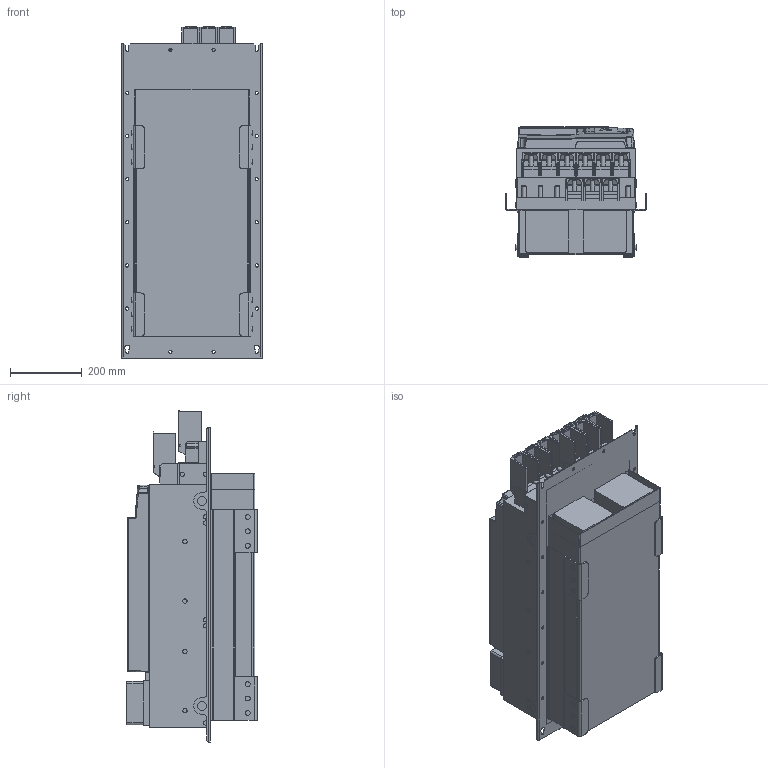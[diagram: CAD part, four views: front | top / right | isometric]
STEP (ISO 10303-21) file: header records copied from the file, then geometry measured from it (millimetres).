
FILE_DESCRIPTION (( 'STEP AP214' ), '1' );
FILE_NAME ('F6-8TR5-P150.STEP', '2021-03-02T14:24:54', ( '' ), ( '' ), 'SwSTEP 2.0', 'SolidWorks 2019', '' );
FILE_SCHEMA (( 'AUTOMOTIVE_DESIGN' ));
Length unit declared in the file: millimetre
Products named in the file (15): 10059762_000_Kundenmodell mit Geberbuchsen; 10059765_000; 10040552_000_Kundenmodell; 10059764_000_Blindabdeckung (Kundenmodell); 10063852_000; 10038044_000_Kundemodell; 10051076_000_Kundenmodell; 10063850_000_Kundenmodell; 10063225_000; 10063199_000; F6-8TR5-P150; 10061505_000; 10047771_000_Kundenmodell; 10063180_000; 10044088_000_Kundenmodell
Assembly tree (14 placements, depth 4):
  F6-8TR5-P150
    10063850_000_Kundenmodell
      10038044_000_Kundemodell
        10063180_000
      10063852_000
    10040552_000_Kundenmodell
      10047771_000_Kundenmodell
        10063225_000
      10063199_000
    10044088_000_Kundenmodell
      10061505_000
    10051076_000_Kundenmodell
      10059764_000_Blindabdeckung (Kundenmodell)
        10059765_000
      10059762_000_Kundenmodell mit Geberbuchsen
Bounding box: 392 x 361.9 x 923.32 mm (x, y, z)
Volume: 83267084.1 mm3; surface area: 3132407.1 mm2
Topology: 7 solids, 43 shells, 3032 faces, 7738 edges, 4827 vertices
Faces by surface type: plane 1596, cylinder 902, bspline 237, sphere 154, cone 98, torus 45
Entity records: 97604 total; most frequent: CARTESIAN_POINT 25660, ORIENTED_EDGE 15254, DIRECTION 14288, EDGE_CURVE 7627, LINE 4890, VECTOR 4890, VERTEX_POINT 4824, AXIS2_PLACEMENT_3D 4699
